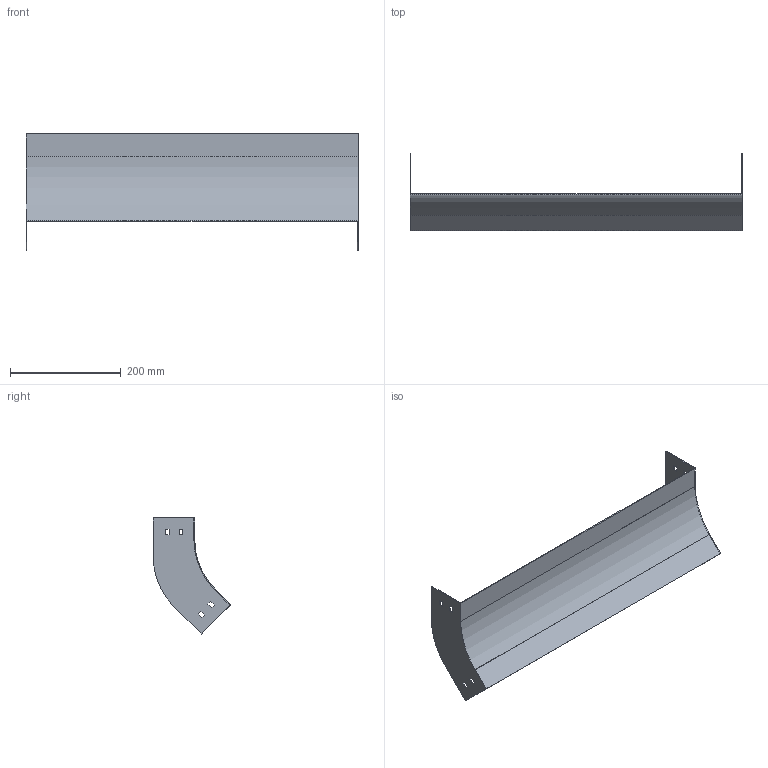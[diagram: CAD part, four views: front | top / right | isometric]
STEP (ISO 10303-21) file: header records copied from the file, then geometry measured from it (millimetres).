
FILE_DESCRIPTION (( 'STEP AP214' ), '1' );
FILE_NAME ('D4_607.step', '2025-07-16T09:08:02', ( '' ), ( '' ), 'SwSTEP 2.0', 'SolidWorks 2023', '' );
FILE_SCHEMA (( 'AUTOMOTIVE_DESIGN' ));
Length unit declared in the file: millimetre
Products named in the file (1): D4_607
Bounding box: 600 x 139.9 x 209.71 mm (x, y, z)
Volume: 207532.4 mm3; surface area: 280078 mm2
Topology: 1 solids, 1 shells, 50 faces, 144 edges, 96 vertices
Faces by surface type: plane 46, cylinder 4
Entity records: 1671 total; most frequent: CARTESIAN_POINT 291, ORIENTED_EDGE 288, DIRECTION 254, EDGE_CURVE 144, VECTOR 136, LINE 136, VERTEX_POINT 96, EDGE_LOOP 66
